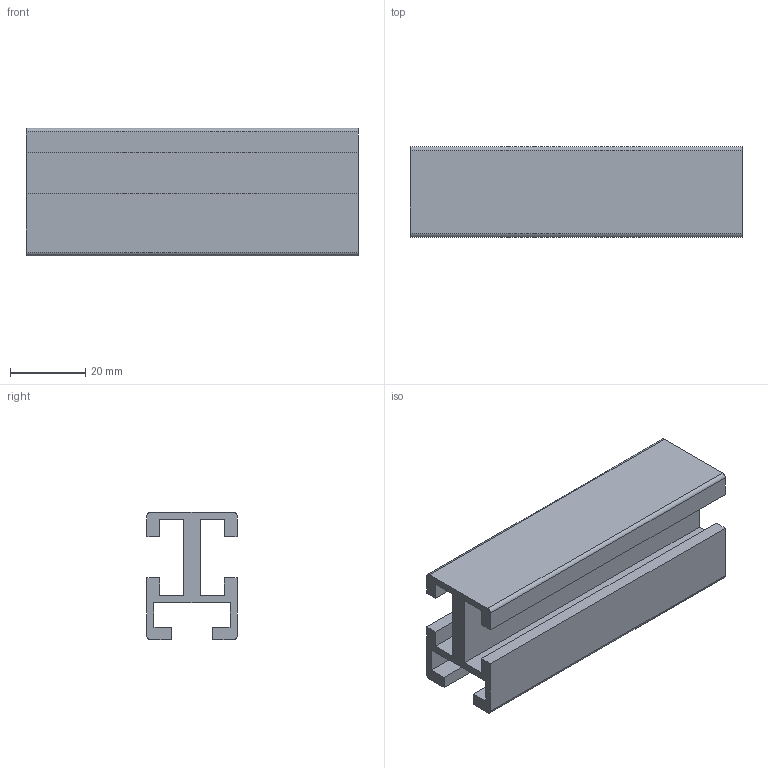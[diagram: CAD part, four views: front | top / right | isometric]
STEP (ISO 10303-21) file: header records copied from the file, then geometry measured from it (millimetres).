
FILE_DESCRIPTION (( 'STEP AP214' ), '1' );
FILE_NAME ('FBSB-24x34.STEP', '2011-11-21T12:18:51', ( '.' ), ( '' ), 'SwSTEP 2.0', 'SolidWorks 2010', '' );
FILE_SCHEMA (( 'AUTOMOTIVE_DESIGN' ));
Length unit declared in the file: millimetre
Products named in the file (1): FBSB-24x34
Bounding box: 88.42 x 24 x 34 mm (x, y, z)
Volume: 27385.2 mm3; surface area: 20857.3 mm2
Topology: 1 solids, 1 shells, 34 faces, 96 edges, 64 vertices
Faces by surface type: plane 30, cylinder 4
Entity records: 1122 total; most frequent: CARTESIAN_POINT 195, ORIENTED_EDGE 192, DIRECTION 174, EDGE_CURVE 96, VECTOR 88, LINE 88, VERTEX_POINT 64, AXIS2_PLACEMENT_3D 43
